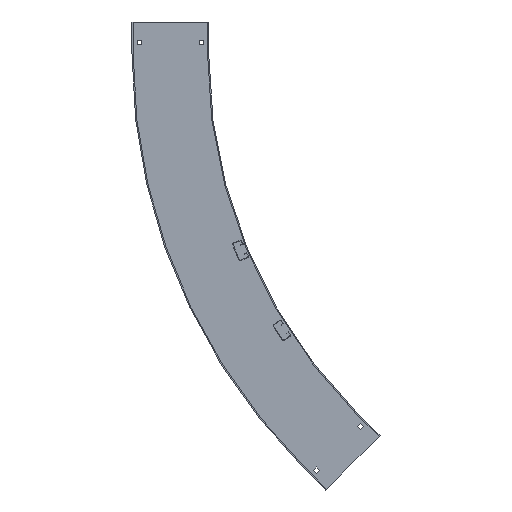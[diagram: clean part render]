
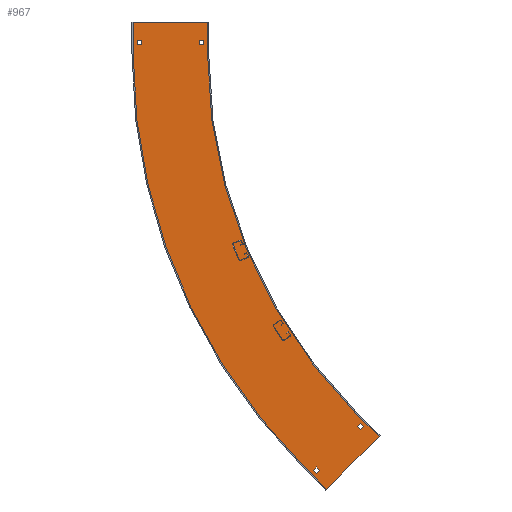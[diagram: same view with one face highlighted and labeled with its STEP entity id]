
A CAD part, left-side view. The second image highlights one B-rep face of the part: STEP entity #967.
In plain terms, the highlighted planar face has unit normal (-1, 0, 0) as drawn and (1, 0, 0) by its records, which use the part's own axes.
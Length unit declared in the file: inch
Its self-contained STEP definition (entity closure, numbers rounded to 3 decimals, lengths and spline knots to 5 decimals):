
#9=DIRECTION('',(0.,1.,0.));
#10=VECTOR('',#9,7.02);
#11=CARTESIAN_POINT('',(0.1,0.11,0.));
#12=LINE('',#11,#10);
#194=DIRECTION('',(0.,0.,1.));
#195=VECTOR('',#194,3.);
#196=CARTESIAN_POINT('',(0.1,7.13,0.));
#197=LINE('',#196,#195);
#198=DIRECTION('',(0.,0.,1.));
#199=VECTOR('',#198,3.);
#200=CARTESIAN_POINT('',(0.1,0.11,0.));
#201=LINE('',#200,#199);
#202=CARTESIAN_POINT('',(0.1,-48.,3.));
#203=DIRECTION('',(1.,0.,0.));
#204=DIRECTION('',(0.,1.,0.));
#205=AXIS2_PLACEMENT_3D('',#202,#203,#204);
#207=DIRECTION('',(0.,-0.707,0.707));
#208=VECTOR('',#207,3.);
#209=CARTESIAN_POINT('',(0.1,-13.98109,37.01891));
#210=LINE('',#209,#208);
#211=DIRECTION('',(0.,0.,-1.));
#212=VECTOR('',#211,0.41);
#213=CARTESIAN_POINT('',(0.1,0.498,2.165));
#214=LINE('',#213,#212);
#215=DIRECTION('',(0.,1.,0.));
#216=VECTOR('',#215,0.41);
#217=CARTESIAN_POINT('',(0.1,0.498,1.755));
#218=LINE('',#217,#216);
#219=DIRECTION('',(0.,0.,1.));
#220=VECTOR('',#219,0.41);
#221=CARTESIAN_POINT('',(0.1,0.908,1.755));
#222=LINE('',#221,#220);
#223=DIRECTION('',(0.,-1.,0.));
#224=VECTOR('',#223,0.41);
#225=CARTESIAN_POINT('',(0.1,0.908,2.165));
#226=LINE('',#225,#224);
#227=DIRECTION('',(0.,1.,0.));
#228=VECTOR('',#227,0.41);
#229=CARTESIAN_POINT('',(0.1,6.333,1.755));
#230=LINE('',#229,#228);
#231=DIRECTION('',(0.,0.,1.));
#232=VECTOR('',#231,0.41);
#233=CARTESIAN_POINT('',(0.1,6.743,1.755));
#234=LINE('',#233,#232);
#235=DIRECTION('',(0.,-1.,0.));
#236=VECTOR('',#235,0.41);
#237=CARTESIAN_POINT('',(0.1,6.743,2.165));
#238=LINE('',#237,#236);
#239=DIRECTION('',(0.,0.,-1.));
#240=VECTOR('',#239,0.41);
#241=CARTESIAN_POINT('',(0.1,6.333,2.165));
#242=LINE('',#241,#240);
#243=DIRECTION('',(0.,0.707,-0.707));
#244=VECTOR('',#243,0.41);
#245=CARTESIAN_POINT('',(0.1,-14.58708,38.17361));
#246=LINE('',#245,#244);
#247=DIRECTION('',(0.,0.707,0.707));
#248=VECTOR('',#247,0.41);
#249=CARTESIAN_POINT('',(0.1,-14.29717,37.8837));
#250=LINE('',#249,#248);
#251=DIRECTION('',(0.,-0.707,0.707));
#252=VECTOR('',#251,0.41);
#253=CARTESIAN_POINT('',(0.1,-14.00726,38.17361));
#254=LINE('',#253,#252);
#255=DIRECTION('',(0.,-0.707,-0.707));
#256=VECTOR('',#255,0.41);
#257=CARTESIAN_POINT('',(0.1,-14.29717,38.46353));
#258=LINE('',#257,#256);
#259=DIRECTION('',(0.,0.707,-0.707));
#260=VECTOR('',#259,0.41);
#261=CARTESIAN_POINT('',(0.1,-10.46112,42.29958));
#262=LINE('',#261,#260);
#263=DIRECTION('',(0.,0.707,0.707));
#264=VECTOR('',#263,0.41);
#265=CARTESIAN_POINT('',(0.1,-10.1712,42.00967));
#266=LINE('',#265,#264);
#267=DIRECTION('',(0.,-0.707,0.707));
#268=VECTOR('',#267,0.41);
#269=CARTESIAN_POINT('',(0.1,-9.88129,42.29958));
#270=LINE('',#269,#268);
#271=DIRECTION('',(0.,-0.707,-0.707));
#272=VECTOR('',#271,0.41);
#273=CARTESIAN_POINT('',(0.1,-10.1712,42.58949));
#274=LINE('',#273,#272);
#336=DIRECTION('',(0.,0.707,0.707));
#337=VECTOR('',#336,7.02);
#338=CARTESIAN_POINT('',(0.1,-16.10241,39.14023));
#339=LINE('',#338,#337);
#416=DIRECTION('',(0.,-0.707,0.707));
#417=VECTOR('',#416,3.);
#418=CARTESIAN_POINT('',(0.1,-9.0172,41.9828));
#419=LINE('',#418,#417);
#424=CARTESIAN_POINT('',(0.1,-48.,3.));
#425=DIRECTION('',(1.,0.,0.));
#426=DIRECTION('',(0.,1.,0.));
#427=AXIS2_PLACEMENT_3D('',#424,#425,#426);
#497=CARTESIAN_POINT('',(0.1,0.11,0.));
#498=VERTEX_POINT('',#497);
#499=CARTESIAN_POINT('',(0.1,7.13,0.));
#500=VERTEX_POINT('',#499);
#518=CARTESIAN_POINT('',(0.1,0.11,3.));
#520=VERTEX_POINT('',#518);
#521=CARTESIAN_POINT('',(0.1,7.13,3.));
#523=VERTEX_POINT('',#521);
#542=CARTESIAN_POINT('',(0.1,-13.98109,37.01891));
#544=VERTEX_POINT('',#542);
#545=CARTESIAN_POINT('',(0.1,-9.0172,41.9828));
#547=VERTEX_POINT('',#545);
#569=CARTESIAN_POINT('',(0.1,-16.10241,39.14023));
#570=VERTEX_POINT('',#569);
#571=CARTESIAN_POINT('',(0.1,-11.13852,44.10412));
#572=VERTEX_POINT('',#571);
#589=CARTESIAN_POINT('',(0.1,0.498,2.165));
#590=CARTESIAN_POINT('',(0.1,0.498,1.755));
#591=VERTEX_POINT('',#589);
#592=VERTEX_POINT('',#590);
#593=CARTESIAN_POINT('',(0.1,0.908,1.755));
#594=VERTEX_POINT('',#593);
#595=CARTESIAN_POINT('',(0.1,0.908,2.165));
#596=VERTEX_POINT('',#595);
#597=CARTESIAN_POINT('',(0.1,6.333,1.755));
#598=CARTESIAN_POINT('',(0.1,6.743,1.755));
#599=VERTEX_POINT('',#597);
#600=VERTEX_POINT('',#598);
#601=CARTESIAN_POINT('',(0.1,6.743,2.165));
#602=VERTEX_POINT('',#601);
#603=CARTESIAN_POINT('',(0.1,6.333,2.165));
#604=VERTEX_POINT('',#603);
#621=CARTESIAN_POINT('',(0.1,-14.58708,38.17361));
#622=CARTESIAN_POINT('',(0.1,-14.29717,37.8837));
#623=VERTEX_POINT('',#621);
#624=VERTEX_POINT('',#622);
#625=CARTESIAN_POINT('',(0.1,-14.00726,38.17361));
#626=VERTEX_POINT('',#625);
#627=CARTESIAN_POINT('',(0.1,-14.29717,38.46353));
#628=VERTEX_POINT('',#627);
#629=CARTESIAN_POINT('',(0.1,-10.46112,42.29958));
#630=CARTESIAN_POINT('',(0.1,-10.1712,42.00967));
#631=VERTEX_POINT('',#629);
#632=VERTEX_POINT('',#630);
#633=CARTESIAN_POINT('',(0.1,-9.88129,42.29958));
#634=VERTEX_POINT('',#633);
#635=CARTESIAN_POINT('',(0.1,-10.1712,42.58949));
#636=VERTEX_POINT('',#635);
#906=CARTESIAN_POINT('',(0.1,0.11,0.));
#907=DIRECTION('',(1.,0.,0.));
#908=DIRECTION('',(0.,1.,0.));
#909=AXIS2_PLACEMENT_3D('',#906,#907,#908);
#910=PLANE('',#909);
#911=ORIENTED_EDGE('',*,*,#662,.F.);
#913=ORIENTED_EDGE('',*,*,#912,.T.);
#915=ORIENTED_EDGE('',*,*,#914,.T.);
#917=ORIENTED_EDGE('',*,*,#916,.T.);
#919=ORIENTED_EDGE('',*,*,#918,.T.);
#921=ORIENTED_EDGE('',*,*,#920,.F.);
#923=ORIENTED_EDGE('',*,*,#922,.F.);
#924=ORIENTED_EDGE('',*,*,#898,.F.);
#925=EDGE_LOOP('',(#911,#913,#915,#917,#919,#921,#923,#924));
#926=FACE_OUTER_BOUND('',#925,.F.);
#928=ORIENTED_EDGE('',*,*,#927,.T.);
#930=ORIENTED_EDGE('',*,*,#929,.T.);
#932=ORIENTED_EDGE('',*,*,#931,.T.);
#934=ORIENTED_EDGE('',*,*,#933,.T.);
#935=EDGE_LOOP('',(#928,#930,#932,#934));
#936=FACE_BOUND('',#935,.F.);
#938=ORIENTED_EDGE('',*,*,#937,.T.);
#940=ORIENTED_EDGE('',*,*,#939,.T.);
#942=ORIENTED_EDGE('',*,*,#941,.T.);
#944=ORIENTED_EDGE('',*,*,#943,.T.);
#945=EDGE_LOOP('',(#938,#940,#942,#944));
#946=FACE_BOUND('',#945,.F.);
#948=ORIENTED_EDGE('',*,*,#947,.T.);
#950=ORIENTED_EDGE('',*,*,#949,.T.);
#952=ORIENTED_EDGE('',*,*,#951,.T.);
#954=ORIENTED_EDGE('',*,*,#953,.T.);
#955=EDGE_LOOP('',(#948,#950,#952,#954));
#956=FACE_BOUND('',#955,.F.);
#958=ORIENTED_EDGE('',*,*,#957,.T.);
#960=ORIENTED_EDGE('',*,*,#959,.T.);
#962=ORIENTED_EDGE('',*,*,#961,.T.);
#964=ORIENTED_EDGE('',*,*,#963,.T.);
#965=EDGE_LOOP('',(#958,#960,#962,#964));
#966=FACE_BOUND('',#965,.F.);
#967=ADVANCED_FACE('',(#926,#936,#946,#956,#966),#910,.T.);
#206=CIRCLE('',#205,48.11);
#428=CIRCLE('',#427,55.13);
#662=EDGE_CURVE('',#498,#500,#12,.T.);
#898=EDGE_CURVE('',#500,#523,#197,.T.);
#912=EDGE_CURVE('',#498,#520,#201,.T.);
#914=EDGE_CURVE('',#520,#544,#206,.T.);
#916=EDGE_CURVE('',#544,#570,#210,.T.);
#918=EDGE_CURVE('',#570,#572,#339,.T.);
#920=EDGE_CURVE('',#547,#572,#419,.T.);
#922=EDGE_CURVE('',#523,#547,#428,.T.);
#927=EDGE_CURVE('',#591,#592,#214,.T.);
#929=EDGE_CURVE('',#592,#594,#218,.T.);
#931=EDGE_CURVE('',#594,#596,#222,.T.);
#933=EDGE_CURVE('',#596,#591,#226,.T.);
#937=EDGE_CURVE('',#599,#600,#230,.T.);
#939=EDGE_CURVE('',#600,#602,#234,.T.);
#941=EDGE_CURVE('',#602,#604,#238,.T.);
#943=EDGE_CURVE('',#604,#599,#242,.T.);
#947=EDGE_CURVE('',#623,#624,#246,.T.);
#949=EDGE_CURVE('',#624,#626,#250,.T.);
#951=EDGE_CURVE('',#626,#628,#254,.T.);
#953=EDGE_CURVE('',#628,#623,#258,.T.);
#957=EDGE_CURVE('',#631,#632,#262,.T.);
#959=EDGE_CURVE('',#632,#634,#266,.T.);
#961=EDGE_CURVE('',#634,#636,#270,.T.);
#963=EDGE_CURVE('',#636,#631,#274,.T.);
